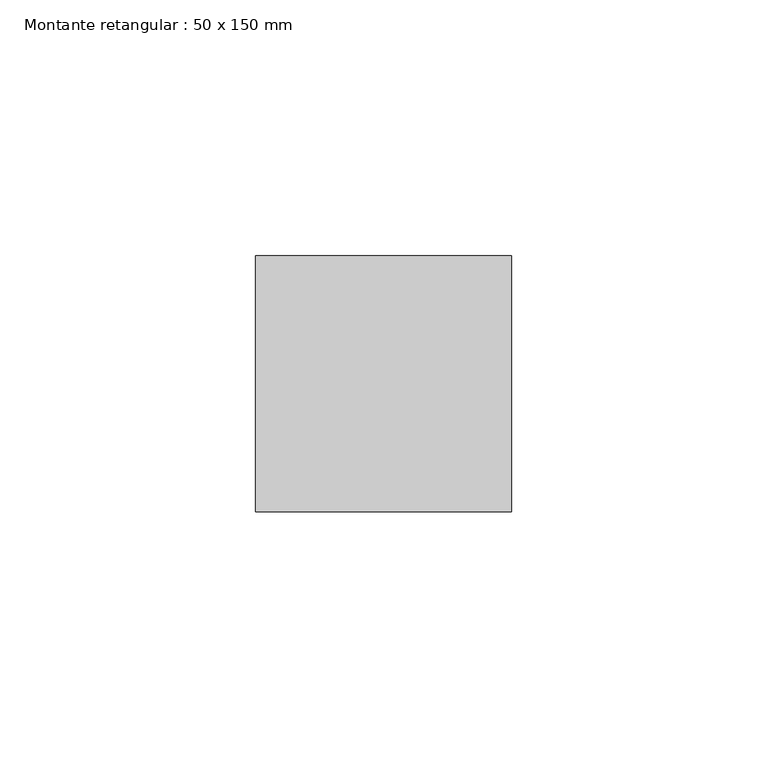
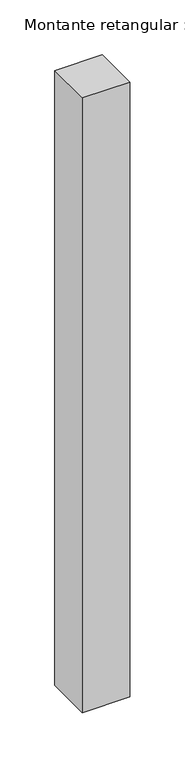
"""IFC4 building model written with IfcOpenShell, lengths in millimetres: member geometry, Montante retangular : 50 x 150 mm."""

from ifc_helpers import new_model, si_unit, frame, origin, place, context, project, spatial, polyline, outline, extrude, source, transform, mapped, element, save


def montante_retangular_50_x_150_mm_ea7f00e3(model_context):
    return source(origin(), model_context, "Body", "SweptSolid", [
        extrude(outline(polyline([(25.0, 25.0), (25.0, -25.0), (-25.0, -25.0), (-25.0, 25.0), (25.0, 25.0)])), frame((0.0, 0.0, -685.05), z_axis=(0.0, 0.0, 1.0), x_axis=(1.0, 0.0, 0.0)), (0.0, 0.0, 1.0), 685.05),
    ])


if __name__ == "__main__":
    model = new_model("IFC4")
    model_context = context("Model", 3, world=origin())
    ifc_project = project(units=[si_unit("LENGTHUNIT", "METRE", prefix="MILLI")], contexts=[model_context])
    site = spatial("IfcSite", under=ifc_project)
    building = spatial("IfcBuilding", under=site)
    placement = place(None, origin())
    montante_retangular_50_x_150_mm_shape = montante_retangular_50_x_150_mm_ea7f00e3(model_context)
    element("IfcMember", 1, ObjectType="Montante retangular : 50 x 150 mm", at=placement, inside=building, context=model_context, shape_type="MappedRepresentation", body=[
        mapped(montante_retangular_50_x_150_mm_shape, transform((0.0, 0.0, 0.0), x_axis=(1.0, 0.0, 0.0), y_axis=(0.0, 1.0, 0.0), z_axis=(0.0, 0.0, 1.0))),
    ])
    save(model, "model.ifc")
